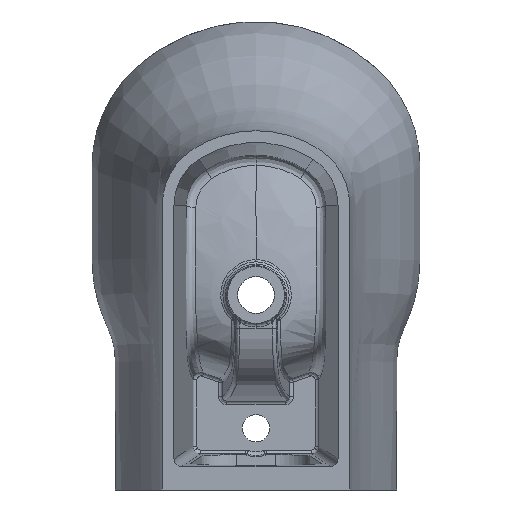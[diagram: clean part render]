
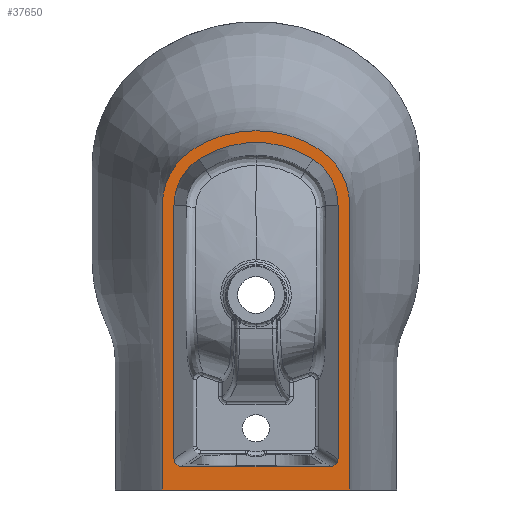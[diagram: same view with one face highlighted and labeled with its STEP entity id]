
A CAD part, front view. The second image highlights one B-rep face of the part: STEP entity #37650.
In plain terms, the highlighted planar face has unit normal (0, -1, 0).
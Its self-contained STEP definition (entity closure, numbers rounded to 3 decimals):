
#80 = VERTEX_POINT ( 'NONE', #58174 ) ;
#375 = VERTEX_POINT ( 'NONE', #21079 ) ;
#843 = DIRECTION ( 'NONE',  ( 0., 1., 0. ) ) ;
#1075 = EDGE_CURVE ( 'NONE', #37211, #375, #44605, .T. ) ;
#1081 = CARTESIAN_POINT ( 'NONE',  ( 0., -480., 30. ) ) ;
#1836 = EDGE_CURVE ( 'NONE', #22339, #47164, #2219, .T. ) ;
#2219 =( BOUNDED_CURVE ( )  B_SPLINE_CURVE ( 3, ( #27355, #45768, #36707, #37298 ),
 .UNSPECIFIED., .F., .T. ) 
 B_SPLINE_CURVE_WITH_KNOTS ( ( 4, 4 ),
 ( 5.301, 6.87 ),
 .UNSPECIFIED. ) 
 CURVE ( )  GEOMETRIC_REPRESENTATION_ITEM ( )  RATIONAL_B_SPLINE_CURVE ( ( 1., 0.805, 0.805, 1. ) ) 
 REPRESENTATION_ITEM ( '' )  );
#2499 = DIRECTION ( 'NONE',  ( 0., 0., -1. ) ) ;
#3390 = EDGE_CURVE ( 'NONE', #27383, #38152, #21892, .T. ) ;
#3936 = DIRECTION ( 'NONE',  ( 0., -1., 0. ) ) ;
#3990 = CARTESIAN_POINT ( 'NONE',  ( 95.005, -480., 30. ) ) ;
#4161 = CARTESIAN_POINT ( 'NONE',  ( 100.862, -480., 30. ) ) ;
#4222 = EDGE_CURVE ( 'NONE', #26971, #27383, #23816, .T. ) ;
#5921 = DIRECTION ( 'NONE',  ( 0., 0., 1. ) ) ;
#6072 = EDGE_CURVE ( 'NONE', #47580, #32361, #48891, .T. ) ;
#6095 = VERTEX_POINT ( 'NONE', #26207 ) ;
#6523 = DIRECTION ( 'NONE',  ( 0., 1., 0. ) ) ;
#7347 = CARTESIAN_POINT ( 'NONE',  ( -105., -480., 39.988 ) ) ;
#7518 = CARTESIAN_POINT ( 'NONE',  ( 120., -480., 0. ) ) ;
#7752 = EDGE_CURVE ( 'NONE', #47164, #21610, #12917, .T. ) ;
#9010 = CIRCLE ( 'NONE', #24433, 85. ) ;
#10263 = EDGE_CURVE ( 'NONE', #21610, #47580, #47947, .T. ) ;
#10335 = AXIS2_PLACEMENT_3D ( 'NONE', #54622, #3936, #17824 ) ;
#10436 = PLANE ( 'NONE',  #57173 ) ;
#10738 = FACE_OUTER_BOUND ( 'NONE', #24189, .T. ) ;
#11502 = ORIENTED_EDGE ( 'NONE', *, *, #45016, .F. ) ;
#12917 = LINE ( 'NONE', #22869, #36407 ) ;
#14046 = CARTESIAN_POINT ( 'NONE',  ( -120., -480., 0. ) ) ;
#14130 = ORIENTED_EDGE ( 'NONE', *, *, #56455, .F. ) ;
#14684 = EDGE_CURVE ( 'NONE', #23045, #37211, #45036, .T. ) ;
#14963 = FACE_BOUND ( 'NONE', #19900, .T. ) ;
#15601 = CARTESIAN_POINT ( 'NONE',  ( 80.769, -480., 436.398 ) ) ;
#15655 = DIRECTION ( 'NONE',  ( 0., 1., 0. ) ) ;
#15859 = LINE ( 'NONE', #1081, #16390 ) ;
#16261 = DIRECTION ( 'NONE',  ( 0., 1., 0. ) ) ;
#16390 = VECTOR ( 'NONE', #24009, 1000. ) ;
#16814 = AXIS2_PLACEMENT_3D ( 'NONE', #41589, #843, #31932 ) ;
#17154 = CARTESIAN_POINT ( 'NONE',  ( 0., -480., 310. ) ) ;
#17521 = ORIENTED_EDGE ( 'NONE', *, *, #10263, .T. ) ;
#17824 = DIRECTION ( 'NONE',  ( 0., 0., 1. ) ) ;
#18172 = EDGE_CURVE ( 'NONE', #80, #45434, #32155, .T. ) ;
#18219 = ORIENTED_EDGE ( 'NONE', *, *, #4222, .T. ) ;
#18690 = CARTESIAN_POINT ( 'NONE',  ( -120., -480., 364.772 ) ) ;
#18706 = CIRCLE ( 'NONE', #52437, 70. ) ;
#19900 = EDGE_LOOP ( 'NONE', ( #44764, #11502, #51527, #31467, #37398, #43135, #38755, #17521 ) ) ;
#20647 = DIRECTION ( 'NONE',  ( 0., 0., 1. ) ) ;
#20991 = AXIS2_PLACEMENT_3D ( 'NONE', #52754, #15655, #53341 ) ;
#21016 = ORIENTED_EDGE ( 'NONE', *, *, #51408, .F. ) ;
#21037 = VECTOR ( 'NONE', #36681, 1000. ) ;
#21079 = CARTESIAN_POINT ( 'NONE',  ( 105., -480., 364.772 ) ) ;
#21610 = VERTEX_POINT ( 'NONE', #26122 ) ;
#21892 = CIRCLE ( 'NONE', #55598, 150. ) ;
#22266 = CARTESIAN_POINT ( 'NONE',  ( 120., -480., 364.772 ) ) ;
#22271 = CARTESIAN_POINT ( 'NONE',  ( 105., -480., 34.135 ) ) ;
#22339 = VERTEX_POINT ( 'NONE', #32128 ) ;
#22869 = CARTESIAN_POINT ( 'NONE',  ( -105., -480., 0. ) ) ;
#22877 = AXIS2_PLACEMENT_3D ( 'NONE', #17154, #16261, #35563 ) ;
#23045 = VERTEX_POINT ( 'NONE', #3990 ) ;
#23816 = CIRCLE ( 'NONE', #10335, 85. ) ;
#24009 = DIRECTION ( 'NONE',  ( -1., 0., 0. ) ) ;
#24189 = EDGE_LOOP ( 'NONE', ( #44379, #21016, #59542, #54971, #14130, #30290, #18219 ) ) ;
#24433 = AXIS2_PLACEMENT_3D ( 'NONE', #29151, #6523, #5921 ) ;
#25025 = DIRECTION ( 'NONE',  ( 0., 0., 1. ) ) ;
#26122 = CARTESIAN_POINT ( 'NONE',  ( -105., -480., 364.772 ) ) ;
#26207 = CARTESIAN_POINT ( 'NONE',  ( -80.769, -480., 436.398 ) ) ;
#26581 = DIRECTION ( 'NONE',  ( 0., 0., 1. ) ) ;
#26971 = VERTEX_POINT ( 'NONE', #22266 ) ;
#27061 = CARTESIAN_POINT ( 'NONE',  ( 105., -480., 39.988 ) ) ;
#27355 = CARTESIAN_POINT ( 'NONE',  ( -95.005, -480., 30. ) ) ;
#27383 = VERTEX_POINT ( 'NONE', #15601 ) ;
#27400 = CIRCLE ( 'NONE', #16814, 150. ) ;
#29151 = CARTESIAN_POINT ( 'NONE',  ( -35., -480., 364.772 ) ) ;
#30251 = VECTOR ( 'NONE', #20647, 1000. ) ;
#30290 = ORIENTED_EDGE ( 'NONE', *, *, #46999, .T. ) ;
#30808 = DIRECTION ( 'NONE',  ( 0., -1., 0. ) ) ;
#31392 = VERTEX_POINT ( 'NONE', #7518 ) ;
#31467 = ORIENTED_EDGE ( 'NONE', *, *, #14684, .F. ) ;
#31889 = LINE ( 'NONE', #50284, #30251 ) ;
#31932 = DIRECTION ( 'NONE',  ( 0., 0., 1. ) ) ;
#32128 = CARTESIAN_POINT ( 'NONE',  ( -95.005, -480., 30. ) ) ;
#32155 = LINE ( 'NONE', #14046, #21037 ) ;
#32240 = CARTESIAN_POINT ( 'NONE',  ( 72.692, -480., 423.758 ) ) ;
#32361 = VERTEX_POINT ( 'NONE', #32240 ) ;
#32921 = DIRECTION ( 'NONE',  ( -1., 0., 0. ) ) ;
#34126 = LINE ( 'NONE', #52520, #56622 ) ;
#35563 = DIRECTION ( 'NONE',  ( 0., 0., -1. ) ) ;
#36407 = VECTOR ( 'NONE', #37042, 1000. ) ;
#36681 = DIRECTION ( 'NONE',  ( 0., 0., 1. ) ) ;
#36707 = CARTESIAN_POINT ( 'NONE',  ( -105., -480., 34.135 ) ) ;
#37042 = DIRECTION ( 'NONE',  ( 0., 0., 1. ) ) ;
#37211 = VERTEX_POINT ( 'NONE', #27061 ) ;
#37298 = CARTESIAN_POINT ( 'NONE',  ( -105., -480., 39.988 ) ) ;
#37398 = ORIENTED_EDGE ( 'NONE', *, *, #53600, .T. ) ;
#37650 = ADVANCED_FACE ( 'NONE', ( #10738, #14963 ), #10436, .F. ) ;
#38057 = EDGE_CURVE ( 'NONE', #45434, #6095, #9010, .T. ) ;
#38152 = VERTEX_POINT ( 'NONE', #44507 ) ;
#38195 = DIRECTION ( 'NONE',  ( 0., 1., 0. ) ) ;
#38755 = ORIENTED_EDGE ( 'NONE', *, *, #7752, .T. ) ;
#40669 = CARTESIAN_POINT ( 'NONE',  ( 105., -480., 39.988 ) ) ;
#41589 = CARTESIAN_POINT ( 'NONE',  ( 0., -480., 310. ) ) ;
#43135 = ORIENTED_EDGE ( 'NONE', *, *, #1836, .T. ) ;
#44379 = ORIENTED_EDGE ( 'NONE', *, *, #3390, .T. ) ;
#44507 = CARTESIAN_POINT ( 'NONE',  ( 0., -480., 460. ) ) ;
#44605 = LINE ( 'NONE', #53646, #56556 ) ;
#44764 = ORIENTED_EDGE ( 'NONE', *, *, #6072, .T. ) ;
#45016 = EDGE_CURVE ( 'NONE', #375, #32361, #18706, .T. ) ;
#45036 =( BOUNDED_CURVE ( )  B_SPLINE_CURVE ( 3, ( #49128, #4161, #22271, #40669 ),
 .UNSPECIFIED., .F., .T. ) 
 B_SPLINE_CURVE_WITH_KNOTS ( ( 4, 4 ),
 ( 5.301, 6.87 ),
 .UNSPECIFIED. ) 
 CURVE ( )  GEOMETRIC_REPRESENTATION_ITEM ( )  RATIONAL_B_SPLINE_CURVE ( ( 1., 0.805, 0.805, 1. ) ) 
 REPRESENTATION_ITEM ( '' )  );
#45434 = VERTEX_POINT ( 'NONE', #18690 ) ;
#45768 = CARTESIAN_POINT ( 'NONE',  ( -100.862, -480., 30. ) ) ;
#46999 = EDGE_CURVE ( 'NONE', #31392, #26971, #31889, .T. ) ;
#47164 = VERTEX_POINT ( 'NONE', #7347 ) ;
#47580 = VERTEX_POINT ( 'NONE', #58185 ) ;
#47947 = CIRCLE ( 'NONE', #20991, 70. ) ;
#48073 = CARTESIAN_POINT ( 'NONE',  ( 35., -480., 364.772 ) ) ;
#48432 = CARTESIAN_POINT ( 'NONE',  ( 0., -480., 310. ) ) ;
#48891 = CIRCLE ( 'NONE', #22877, 135. ) ;
#49128 = CARTESIAN_POINT ( 'NONE',  ( 95.005, -480., 30. ) ) ;
#49501 = CARTESIAN_POINT ( 'NONE',  ( 0., -480., 310. ) ) ;
#50284 = CARTESIAN_POINT ( 'NONE',  ( 120., -480., 0. ) ) ;
#51408 = EDGE_CURVE ( 'NONE', #6095, #38152, #27400, .T. ) ;
#51527 = ORIENTED_EDGE ( 'NONE', *, *, #1075, .F. ) ;
#52297 = DIRECTION ( 'NONE',  ( 0., -1., 0. ) ) ;
#52437 = AXIS2_PLACEMENT_3D ( 'NONE', #48073, #52297, #2499 ) ;
#52520 = CARTESIAN_POINT ( 'NONE',  ( -120., -480., 0. ) ) ;
#52754 = CARTESIAN_POINT ( 'NONE',  ( -35., -480., 364.772 ) ) ;
#53341 = DIRECTION ( 'NONE',  ( 0., 0., -1. ) ) ;
#53600 = EDGE_CURVE ( 'NONE', #23045, #22339, #15859, .T. ) ;
#53646 = CARTESIAN_POINT ( 'NONE',  ( 105., -480., 0. ) ) ;
#54622 = CARTESIAN_POINT ( 'NONE',  ( 35., -480., 364.772 ) ) ;
#54971 = ORIENTED_EDGE ( 'NONE', *, *, #18172, .F. ) ;
#55598 = AXIS2_PLACEMENT_3D ( 'NONE', #49501, #30808, #26581 ) ;
#56455 = EDGE_CURVE ( 'NONE', #31392, #80, #34126, .T. ) ;
#56556 = VECTOR ( 'NONE', #25025, 1000. ) ;
#56622 = VECTOR ( 'NONE', #32921, 1000. ) ;
#57173 = AXIS2_PLACEMENT_3D ( 'NONE', #48432, #38195, #57489 ) ;
#57489 = DIRECTION ( 'NONE',  ( 0., 0., 1. ) ) ;
#58174 = CARTESIAN_POINT ( 'NONE',  ( -120., -480., 0. ) ) ;
#58185 = CARTESIAN_POINT ( 'NONE',  ( -72.692, -480., 423.758 ) ) ;
#59542 = ORIENTED_EDGE ( 'NONE', *, *, #38057, .F. ) ;
